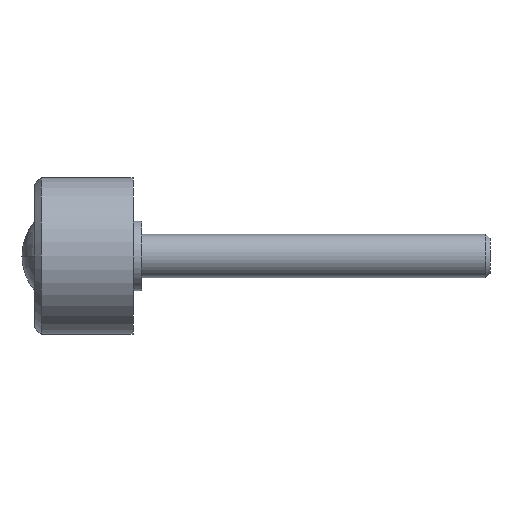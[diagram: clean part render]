
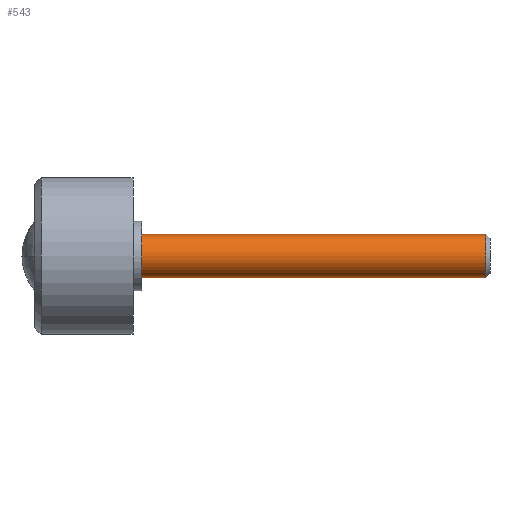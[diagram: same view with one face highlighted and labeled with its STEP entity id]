
A CAD part, left-side view. The second image highlights one B-rep face of the part: STEP entity #543.
In plain terms, the highlighted cylindrical face has radius 5 mm (diameter 10 mm), a partial arc.
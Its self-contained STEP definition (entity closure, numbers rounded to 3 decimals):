
#16 = CARTESIAN_POINT ( 'NONE',  ( 0., -82., 5. ) ) ;
#46 = AXIS2_PLACEMENT_3D ( 'NONE', #589, #112, #59 ) ;
#59 = DIRECTION ( 'NONE',  ( 0., 0., 1. ) ) ;
#61 = LINE ( 'NONE', #339, #116 ) ;
#89 = EDGE_CURVE ( 'NONE', #465, #241, #711, .T. ) ;
#111 = EDGE_LOOP ( 'NONE', ( #774, #278, #212, #406 ) ) ;
#112 = DIRECTION ( 'NONE',  ( 0., 1., 0. ) ) ;
#116 = VECTOR ( 'NONE', #529, 1000. ) ;
#148 = CYLINDRICAL_SURFACE ( 'NONE', #46, 5. ) ;
#183 = DIRECTION ( 'NONE',  ( 0., 1., 0. ) ) ;
#193 = DIRECTION ( 'NONE',  ( 0., 0., -1. ) ) ;
#211 = AXIS2_PLACEMENT_3D ( 'NONE', #595, #183, #479 ) ;
#212 = ORIENTED_EDGE ( 'NONE', *, *, #639, .T. ) ;
#234 = VECTOR ( 'NONE', #354, 1000. ) ;
#241 = VERTEX_POINT ( 'NONE', #566 ) ;
#278 = ORIENTED_EDGE ( 'NONE', *, *, #694, .T. ) ;
#279 = CARTESIAN_POINT ( 'NONE',  ( 0., -81., -5. ) ) ;
#295 = CIRCLE ( 'NONE', #211, 5. ) ;
#328 = CARTESIAN_POINT ( 'NONE',  ( 0., -2., 5. ) ) ;
#339 = CARTESIAN_POINT ( 'NONE',  ( 0., -82., -5. ) ) ;
#354 = DIRECTION ( 'NONE',  ( 0., 1., 0. ) ) ;
#359 = LINE ( 'NONE', #16, #234 ) ;
#406 = ORIENTED_EDGE ( 'NONE', *, *, #89, .T. ) ;
#465 = VERTEX_POINT ( 'NONE', #328 ) ;
#479 = DIRECTION ( 'NONE',  ( 0., 0., -1. ) ) ;
#481 = DIRECTION ( 'NONE',  ( 0., -1., 0. ) ) ;
#492 = CARTESIAN_POINT ( 'NONE',  ( 0., -81., 5. ) ) ;
#529 = DIRECTION ( 'NONE',  ( 0., 1., 0. ) ) ;
#531 = AXIS2_PLACEMENT_3D ( 'NONE', #734, #481, #193 ) ;
#543 = ADVANCED_FACE ( 'NONE', ( #693 ), #148, .T. ) ;
#548 = EDGE_CURVE ( 'NONE', #582, #241, #61, .T. ) ;
#566 = CARTESIAN_POINT ( 'NONE',  ( 0., -2., -5. ) ) ;
#582 = VERTEX_POINT ( 'NONE', #279 ) ;
#589 = CARTESIAN_POINT ( 'NONE',  ( 0., -82., 0. ) ) ;
#595 = CARTESIAN_POINT ( 'NONE',  ( 0., -81., 0. ) ) ;
#639 = EDGE_CURVE ( 'NONE', #643, #465, #359, .T. ) ;
#643 = VERTEX_POINT ( 'NONE', #492 ) ;
#693 = FACE_OUTER_BOUND ( 'NONE', #111, .T. ) ;
#694 = EDGE_CURVE ( 'NONE', #582, #643, #295, .T. ) ;
#711 = CIRCLE ( 'NONE', #531, 5. ) ;
#734 = CARTESIAN_POINT ( 'NONE',  ( 0., -2., 0. ) ) ;
#774 = ORIENTED_EDGE ( 'NONE', *, *, #548, .F. ) ;
